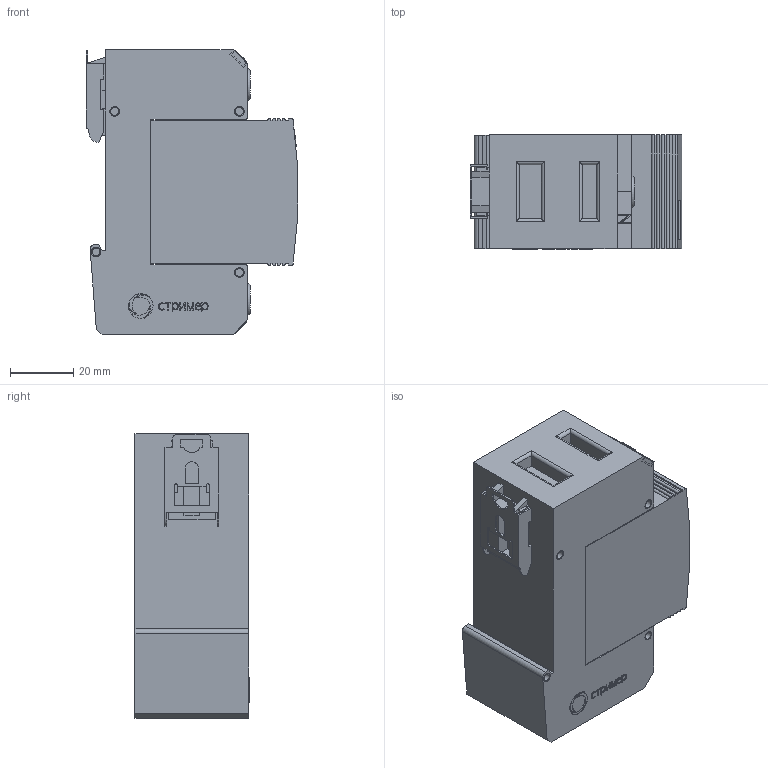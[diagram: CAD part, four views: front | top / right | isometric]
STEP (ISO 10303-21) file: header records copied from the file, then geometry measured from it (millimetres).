
FILE_DESCRIPTION(('TFLEX Exchange Step'),'2;1');
FILE_NAME('X2\041004400442\X0\.111_004.stp', '2022-08-30T13:46:48+03:00',('Ivan Berdigulov'),('Unknown organisation'),'TFLEX Exchange 2019.2','T-FLEX CAD','Unknown authorisation');
FILE_SCHEMA( ('AUTOMOTIVE_DESIGN { 1 0 10303 214 1 1 1 1 }') );
Length unit declared in the file: millimetre
Products named in the file (2): 0
Assembly tree (1 placements, depth 2):
  0
    0
Bounding box: 66.98 x 36.1 x 90.03 mm (x, y, z)
Volume: 172738.3 mm3; surface area: 34922.3 mm2
Topology: 30 solids, 30 shells, 470 faces, 1204 edges, 803 vertices
Faces by surface type: plane 310, cylinder 97, bspline 61, torus 2
Full cylindrical faces by diameter (mm): 2.5 x12, 3 x12
Entity records: 19860 total; most frequent: CARTESIAN_POINT 8718, ORIENTED_EDGE 2356, DIRECTION 2020, EDGE_CURVE 1178, VERTEX_POINT 803, VECTOR 796, LINE 796, AXIS2_PLACEMENT_3D 612
